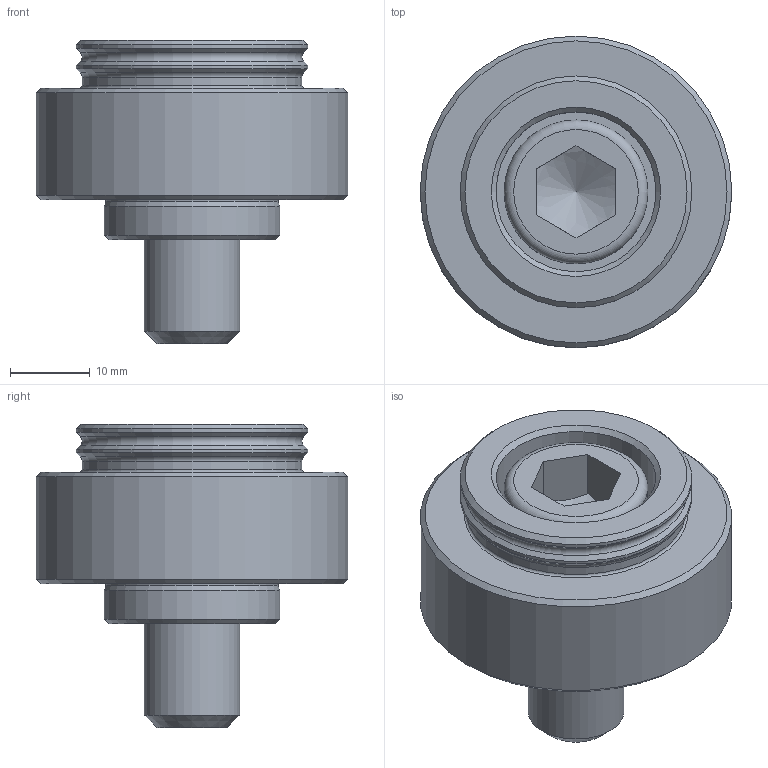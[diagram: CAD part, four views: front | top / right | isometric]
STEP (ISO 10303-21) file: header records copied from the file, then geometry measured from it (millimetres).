
FILE_DESCRIPTION(('STEP AP214'), '1');
FILE_NAME('BB.VS.100.51.020', '', ('UNSPECIFIED'), ('UNSPECIFIED'), 'C3D Converter', 'C3D Toolkit', '');
FILE_SCHEMA(('AUTOMOTIVE_DESIGN { 1 0 10303 214 3 1 1}'));
Length unit declared in the file: millimetre
Products named in the file (1): BB.VS.100.51.020 СБ
Bounding box: 39 x 39 x 38 mm (x, y, z)
Volume: 21759.8 mm3; surface area: 8075.2 mm2
Topology: 1 solids, 1 shells, 43 faces, 84 edges, 49 vertices
Faces by surface type: plane 14, cone 14, cylinder 9, torus 6
Full cylindrical faces by diameter (mm): 12 x1, 13 x1, 18 x1, 20 x1, 22 x1, 27.5 x1, 29 x2, 39 x1
Entity records: 1563 total; most frequent: CARTESIAN_POINT 413, DIRECTION 170, ORIENTED_EDGE 108, AXIS2_PLACEMENT_3D 79, EDGE_LOOP 78, FACE_OUTER_BOUND 56, EDGE_CURVE 54, VERTEX_POINT 48
